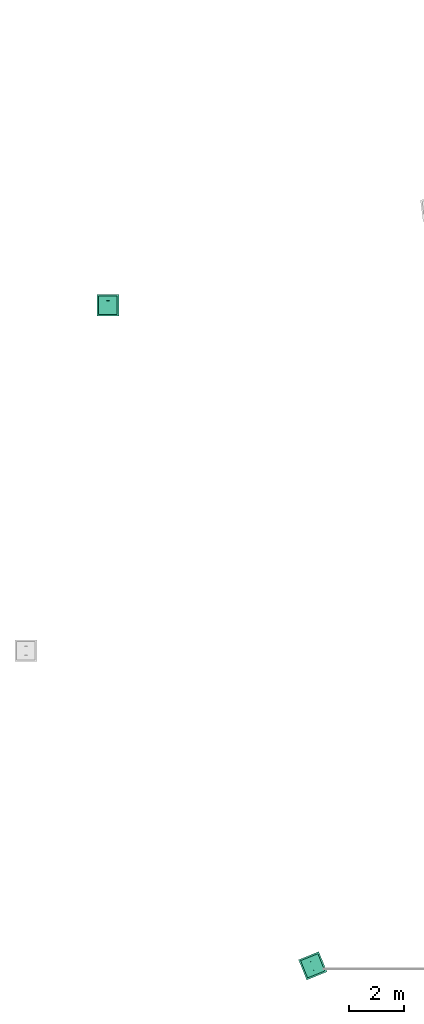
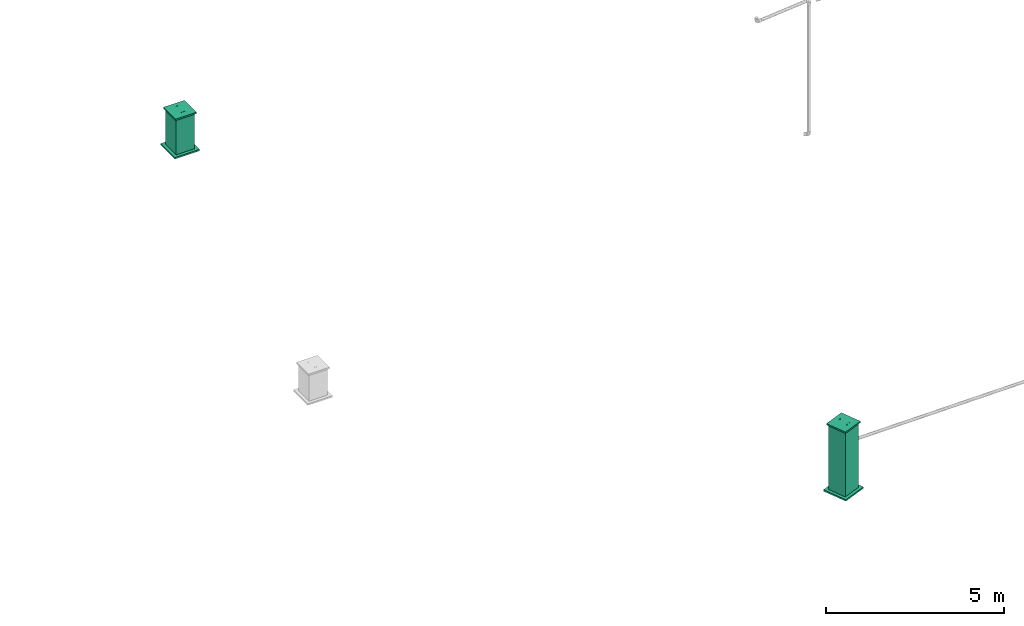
# One storey, part 92 of 97: 2 flow terminals.
"""IFC2X3 building model written with IfcOpenShell, lengths in centimetres."""

from ifc_helpers import new_model, entity, si_unit, converted_unit, derived_unit, direction, frame, origin, place, context, subcontext, project, spatial, faceted_brep, source, transform, mapped, material, material_list, type_object, type_shapes, element, save


model = new_model("IFC2X3")

# Units and contexts
model_context = context("Model", 3, precision=0.001, world=origin(), true_north=direction((6.12303176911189e-17, 1.0)))
body_context = subcontext(model_context, "Body", "Model", "MODEL_VIEW")
ifc_project = project(units=[si_unit("LENGTHUNIT", "METRE", prefix="CENTI"), si_unit("AREAUNIT", "SQUARE_METRE"), si_unit("VOLUMEUNIT", "CUBIC_METRE"), converted_unit("PLANEANGLEUNIT", "DEGREE", entity("IfcRatioMeasure", 0.0174532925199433), si_unit("PLANEANGLEUNIT", "RADIAN"), dimensions=[0, 0, 0, 0, 0, 0, 0]), si_unit("MASSUNIT", "GRAM", prefix="KILO"), derived_unit("MASSDENSITYUNIT", [(si_unit("MASSUNIT", "GRAM", prefix="KILO"), 1), (si_unit("LENGTHUNIT", "METRE"), -3)]), derived_unit("MOMENTOFINERTIAUNIT", [(si_unit("LENGTHUNIT", "METRE"), 4)]), si_unit("TIMEUNIT", "SECOND"), si_unit("FREQUENCYUNIT", "HERTZ"), si_unit("THERMODYNAMICTEMPERATUREUNIT", "DEGREE_CELSIUS"), derived_unit("THERMALTRANSMITTANCEUNIT", [(si_unit("MASSUNIT", "GRAM", prefix="KILO"), 1), (si_unit("THERMODYNAMICTEMPERATUREUNIT", "KELVIN"), -1), (si_unit("TIMEUNIT", "SECOND"), -3)]), derived_unit("VOLUMETRICFLOWRATEUNIT", [(si_unit("LENGTHUNIT", "METRE"), 3), (si_unit("TIMEUNIT", "SECOND"), -1)]), si_unit("ELECTRICCURRENTUNIT", "AMPERE"), si_unit("ELECTRICVOLTAGEUNIT", "VOLT"), si_unit("POWERUNIT", "WATT"), si_unit("FORCEUNIT", "NEWTON", prefix="KILO"), si_unit("ILLUMINANCEUNIT", "LUX"), si_unit("LUMINOUSFLUXUNIT", "LUMEN"), si_unit("LUMINOUSINTENSITYUNIT", "CANDELA"), derived_unit("USERDEFINED", [(si_unit("MASSUNIT", "GRAM", prefix="KILO"), -1), (si_unit("LENGTHUNIT", "METRE"), -2), (si_unit("TIMEUNIT", "SECOND"), 3), (si_unit("LUMINOUSFLUXUNIT", "LUMEN"), 1)]), derived_unit("LINEARVELOCITYUNIT", [(si_unit("LENGTHUNIT", "METRE"), 1), (si_unit("TIMEUNIT", "SECOND"), -1)]), si_unit("PRESSUREUNIT", "PASCAL"), derived_unit("USERDEFINED", [(si_unit("LENGTHUNIT", "METRE"), -2), (si_unit("MASSUNIT", "GRAM", prefix="KILO"), 1), (si_unit("TIMEUNIT", "SECOND"), -2)]), derived_unit("LINEARFORCEUNIT", [(si_unit("MASSUNIT", "GRAM", prefix="KILO"), 1), (si_unit("LENGTHUNIT", "METRE"), 1), (si_unit("TIMEUNIT", "SECOND"), -2), (si_unit("LENGTHUNIT", "METRE"), -1)]), derived_unit("PLANARFORCEUNIT", [(si_unit("MASSUNIT", "GRAM", prefix="KILO"), 1), (si_unit("LENGTHUNIT", "METRE"), 1), (si_unit("TIMEUNIT", "SECOND"), -2), (si_unit("LENGTHUNIT", "METRE"), -2)])], contexts=[model_context])

# Site, building, storey
site_placement = place(None, origin())
site = spatial("IfcSite", under=ifc_project, at=site_placement, Name="Default", CompositionType="ELEMENT")
building_placement = place(site_placement, origin())
building = spatial("IfcBuilding", under=site, at=building_placement, Name="HIDROSSANITÁRIO", CompositionType="ELEMENT")
storey_placement = place(building_placement, frame((0.0, 0.0, -260.0)))
storey = spatial("IfcBuildingStorey", under=building, at=storey_placement, Name="TÉRREO-HID", CompositionType="ELEMENT", Elevation=-260.0)

# Flow terminals
ifc_material_1 = material(Name="<Unnamed>")
ifc_material_2 = material(Name="Concrete, Sand/Cement Screed")
ifc_material_3 = material(Name="Brick, Common, Grey")
ifc_material_list_1 = material_list([ifc_material_1, ifc_material_2, ifc_material_3])
ifc_material_list_2 = material_list([ifc_material_1, ifc_material_2, ifc_material_3])
distribution_element_type_1 = type_object("IfcDistributionElementType", Name="Caixa de Inspeção/Gordura:Alvenaria", material=ifc_material_list_2)
shared_shape_1 = source(origin(), body_context, "Body", "Brep", [
    faceted_brep([(-5.60146522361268, 16.5924553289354, 3.71042168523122), (-5.40613785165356, 16.3971279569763, 3.71042168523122), (-5.60146522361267, 16.2018005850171, 3.71042168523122), (-5.79679259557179, 16.3971279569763, 3.71042168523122), (6.39853477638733, 16.2018005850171, 3.71042168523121), (6.20320740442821, 16.3971279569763, 3.71042168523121), (6.39853477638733, 16.5924553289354, 3.71042168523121), (6.59386214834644, 16.3971279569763, 3.71042168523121), (-5.40613785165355, 16.3971279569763, 5.27042602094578), (-5.57070403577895, 16.2042380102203, 5.71042174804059), (-5.79679259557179, 16.3971279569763, 5.27042593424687), (-5.40613785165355, 16.3971279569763, 7.71042168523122), (-5.60146522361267, 16.2018005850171, 7.71042168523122), (-5.40613785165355, 16.3971279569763, 6.1504173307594), (-5.79679259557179, 16.3971279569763, 7.71042168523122), (-5.60146522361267, 16.5924553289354, 7.71042168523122), (-5.63222641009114, 16.5900179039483, 5.71042169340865), (-5.68947233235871, 16.5044482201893, 7.71042168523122), (-5.25102598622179, 16.2195619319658, 8.35998244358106), (-5.37993713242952, 16.2298951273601, 8.48889359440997), (-4.60146522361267, 16.3971279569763, 8.90574905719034), (-4.60146522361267, 16.2018005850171, 8.71042168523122), (-5.17045469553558, 16.3971279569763, 8.27941115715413), (-4.60146522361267, 16.3971279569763, 8.5150943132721), (-5.44668931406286, 16.3971279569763, 8.55564577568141), (-5.36898819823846, 16.5727768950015, 8.47794465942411), (-5.21737432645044, 16.5627205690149, 8.36172681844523), (-4.60146522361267, 16.5924553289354, 8.71042168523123), (0.518543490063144, 16.3971279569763, 8.90574905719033), (1.73854147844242, 16.2018005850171, 8.71042168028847), (2.95853913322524, 16.3971279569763, 8.90574905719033), (-0.76461087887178, 16.2018577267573, 8.71514602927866), (-2.16146960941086, 16.3971279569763, 8.5150943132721), (0.278526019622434, 16.3971279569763, 8.5150943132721), (0.398534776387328, 16.3971279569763, 8.5150943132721), (-2.16146958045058, 16.3971279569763, 8.90574905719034), (5.39853477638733, 16.2018005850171, 8.71042168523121), (5.39853477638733, 16.3971279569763, 8.90574905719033), (2.95853916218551, 16.3971279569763, 8.5150943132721), (5.39853477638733, 16.3971279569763, 8.51509431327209), (0.398534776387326, 16.3971279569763, 8.90574905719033), (1.56168082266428, 16.5923981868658, 8.70569732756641), (-0.941471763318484, 16.5924553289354, 8.71042168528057), (5.39853477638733, 16.5924553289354, 8.71042168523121), (5.39853477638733, 16.5044482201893, 8.79842879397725), (6.04809553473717, 16.2195619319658, 8.35998244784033), (6.17700668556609, 16.2298951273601, 8.48889359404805), (6.59386214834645, 16.3971279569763, 7.71042168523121), (6.39853477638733, 16.2018005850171, 7.71042168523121), (5.96752424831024, 16.3971279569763, 8.27941115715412), (6.20320740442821, 16.3971279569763, 7.71042168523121), (6.24375886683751, 16.3971279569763, 8.5556457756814), (6.16605775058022, 16.5727768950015, 8.477944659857), (6.04983990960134, 16.5627205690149, 8.32633078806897), (6.39853477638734, 16.5924553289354, 7.71042168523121), (6.20320740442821, 16.3971279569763, 6.15041734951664), (6.36777358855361, 16.2042380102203, 5.71042162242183), (6.59386214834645, 16.3971279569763, 6.15041743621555), (6.20320740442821, 16.3971279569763, 5.27042603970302), (6.4292959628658, 16.5900179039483, 5.71042167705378)], [[[0, 1, 2, 3]], [[4, 5, 6, 7]], [[8, 9, 2]], [[2, 10, 3]], [[10, 2, 9]], [[11, 12, 9]], [[8, 2, 1]], [[9, 8, 13, 11]], [[9, 12, 14]], [[14, 10, 9]], [[13, 15, 11]], [[0, 10, 16]], [[14, 16, 10]], [[10, 0, 3]], [[16, 13, 8, 1]], [[13, 16, 15]], [[1, 0, 16]], [[16, 14, 17, 15]], [[12, 18, 19]], [[20, 19, 21]], [[14, 12, 19]], [[11, 22, 18]], [[23, 21, 18]], [[14, 19, 24]], [[24, 19, 20]], [[23, 18, 22]], [[19, 18, 21]], [[11, 18, 12]], [[17, 14, 24]], [[25, 26, 15]], [[25, 15, 17]], [[11, 15, 26]], [[25, 27, 26]], [[20, 25, 24]], [[20, 27, 25]], [[26, 22, 11]], [[22, 26, 23]], [[17, 24, 25]], [[23, 26, 27]], [[28, 29, 30]], [[31, 32, 33, 34]], [[35, 20, 21]], [[36, 37, 30]], [[29, 28, 31]], [[38, 39, 36]], [[21, 23, 32]], [[34, 29, 31]], [[32, 31, 21]], [[30, 29, 36]], [[34, 38, 29]], [[36, 29, 38]], [[31, 28, 40, 35]], [[31, 35, 21]], [[40, 41, 42]], [[43, 39, 38]], [[27, 42, 33, 32, 23]], [[27, 20, 35, 40, 42]], [[30, 37, 44, 43]], [[38, 41, 43]], [[30, 43, 41]], [[42, 41, 33]], [[41, 40, 28, 30]], [[41, 38, 34, 33]], [[36, 45, 46]], [[47, 46, 48]], [[37, 36, 46]], [[39, 49, 45]], [[50, 48, 45]], [[37, 46, 51]], [[51, 46, 47]], [[50, 45, 49]], [[46, 45, 48]], [[39, 45, 36]], [[44, 37, 51]], [[52, 53, 43]], [[52, 43, 44]], [[39, 43, 53]], [[52, 54, 53]], [[47, 52, 51]], [[47, 54, 52]], [[53, 49, 39]], [[49, 53, 50]], [[44, 51, 52]], [[50, 53, 54]], [[55, 56, 48]], [[48, 57, 47]], [[57, 48, 56]], [[5, 4, 56]], [[55, 48, 50]], [[56, 55, 58, 5]], [[56, 4, 7]], [[7, 57, 56]], [[58, 6, 5]], [[54, 57, 59]], [[7, 59, 57]], [[57, 54, 47]], [[59, 58, 55, 50]], [[58, 59, 6]], [[50, 54, 59]], [[7, 6, 59]]]),
    faceted_brep([(-5.60146522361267, -16.5924553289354, 3.71042168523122), (-5.79679259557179, -16.3971279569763, 3.71042168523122), (-5.60146522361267, -16.2018005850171, 3.71042168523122), (-5.40613785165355, -16.3971279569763, 3.71042168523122), (6.39853477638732, -16.2018005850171, 3.71042168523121), (6.59386214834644, -16.3971279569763, 3.71042168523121), (6.39853477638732, -16.5924553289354, 3.71042168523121), (6.20320740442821, -16.3971279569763, 3.71042168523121), (-5.79679259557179, -16.3971279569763, 6.15041737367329), (-5.60146522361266, -16.5924553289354, 7.71042168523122), (-5.68947233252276, -16.5044482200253, 7.71042168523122), (-5.79679259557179, -16.3971279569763, 7.71042168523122), (-5.40613785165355, -16.3971279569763, 5.27042602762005), (-5.5707040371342, -16.5900179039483, 5.71042169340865), (-5.40613785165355, -16.3971279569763, 7.71042168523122), (-5.79679259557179, -16.3971279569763, 5.27042602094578), (-5.51345811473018, -16.5044482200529, 7.71042168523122), (-5.63222641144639, -16.2042380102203, 5.71042174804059), (-5.60146522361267, -16.2018005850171, 7.71042168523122), (-5.37028554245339, -16.5521831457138, 8.52319636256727), (-5.44668931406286, -16.3971279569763, 8.55564577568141), (-5.17045469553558, -16.3971279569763, 8.27941115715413), (-4.60146522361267, -16.3971279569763, 8.5150943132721), (-4.60146522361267, -16.5044482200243, 8.62241457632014), (-4.60146522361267, -16.5924553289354, 8.71042168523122), (-4.60146522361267, -16.5044482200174, 8.79842879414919), (-5.27261908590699, -16.5857215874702, 8.3815755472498), (-4.60146522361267, -16.3971279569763, 8.90574905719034), (-5.23720687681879, -16.2298951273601, 8.34616333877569), (-4.60146522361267, -16.2018005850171, 8.71042168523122), (-5.36611802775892, -16.2195619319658, 8.4750744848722), (0.398534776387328, -16.3971279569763, 8.5150943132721), (1.56168082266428, -16.5923981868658, 8.71514604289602), (-0.941471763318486, -16.5924553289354, 8.71042168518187), (2.95853912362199, -16.3971279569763, 8.90574905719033), (5.39853477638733, -16.5924553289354, 8.71042168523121), (5.39853477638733, -16.5044482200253, 8.7984287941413), (5.39853477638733, -16.3971279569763, 8.90574905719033), (0.278526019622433, -16.3971279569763, 8.90574905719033), (-2.16146957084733, -16.3971279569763, 8.90574905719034), (-2.16146960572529, -16.3971279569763, 8.5150943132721), (2.95853915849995, -16.3971279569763, 8.51509431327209), (5.39853477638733, -16.3971279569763, 8.51509431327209), (5.39853477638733, -16.5044482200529, 8.62241457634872), (0.518543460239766, -16.3971279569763, 8.5150943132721), (0.398534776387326, -16.3971279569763, 8.90574905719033), (1.73854147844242, -16.2018005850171, 8.71042169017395), (-0.76461087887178, -16.2018577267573, 8.70569734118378), (5.39853477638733, -16.2018005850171, 8.71042168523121), (6.21130945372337, -16.5521831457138, 8.47924200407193), (6.24375886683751, -16.3971279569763, 8.5556457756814), (5.96752424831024, -16.3971279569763, 8.27941115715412), (6.20320740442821, -16.3971279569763, 7.71042168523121), (6.31052766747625, -16.5044482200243, 7.71042168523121), (6.39853477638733, -16.5924553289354, 7.71042168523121), (6.4865418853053, -16.5044482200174, 7.71042168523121), (6.06968863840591, -16.5857215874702, 8.38157554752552), (6.59386214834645, -16.3971279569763, 7.71042168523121), (6.03427642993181, -16.2298951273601, 8.34616333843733), (6.39853477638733, -16.2018005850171, 7.71042168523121), (6.16318757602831, -16.2195619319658, 8.47507448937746), (6.59386214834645, -16.3971279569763, 5.27042599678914), (6.20320740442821, -16.3971279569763, 6.15041726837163), (6.36777358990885, -16.5900179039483, 5.71042167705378), (6.59386214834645, -16.3971279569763, 6.15041734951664), (6.42929596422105, -16.2042380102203, 5.71042162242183)], [[[0, 1, 2, 3]], [[4, 5, 6, 7]], [[8, 9, 10, 11]], [[0, 12, 13]], [[14, 13, 12]], [[12, 0, 3]], [[13, 8, 15, 1]], [[8, 13, 9]], [[1, 0, 13]], [[13, 14, 16, 9]], [[15, 17, 2]], [[2, 12, 3]], [[12, 2, 17]], [[11, 18, 17]], [[15, 2, 1]], [[17, 15, 8, 11]], [[17, 18, 14]], [[14, 12, 17]], [[19, 10, 9]], [[10, 19, 20]], [[21, 22, 23]], [[24, 25, 19]], [[24, 26, 23]], [[24, 19, 26]], [[16, 26, 9]], [[20, 25, 27]], [[20, 11, 10]], [[23, 26, 21]], [[19, 25, 20]], [[14, 21, 16]], [[26, 19, 9]], [[26, 16, 21]], [[22, 28, 29]], [[18, 30, 28]], [[14, 28, 21]], [[14, 18, 28]], [[11, 20, 30]], [[27, 30, 20]], [[27, 29, 30]], [[11, 30, 18]], [[21, 28, 22]], [[28, 30, 29]], [[31, 32, 33]], [[34, 35, 36, 37]], [[24, 33, 38, 39, 27, 25]], [[40, 31, 33, 24, 23, 22]], [[41, 42, 43, 35]], [[34, 32, 35]], [[41, 35, 32]], [[33, 32, 38]], [[32, 31, 44, 41]], [[32, 34, 45, 38]], [[44, 46, 41]], [[47, 39, 38, 45]], [[40, 22, 29]], [[48, 42, 41]], [[46, 44, 47]], [[34, 37, 48]], [[29, 27, 39]], [[45, 46, 47]], [[39, 47, 29]], [[41, 46, 48]], [[45, 34, 46]], [[48, 46, 34]], [[47, 44, 31, 40]], [[47, 40, 29]], [[49, 36, 35]], [[36, 49, 50]], [[51, 52, 53]], [[54, 55, 49]], [[54, 56, 53]], [[54, 49, 56]], [[43, 56, 35]], [[50, 55, 57]], [[50, 37, 36]], [[53, 56, 51]], [[49, 55, 50]], [[42, 51, 43]], [[56, 49, 35]], [[56, 43, 51]], [[52, 58, 59]], [[48, 60, 58]], [[42, 58, 51]], [[42, 48, 58]], [[37, 50, 60]], [[57, 60, 50]], [[57, 59, 60]], [[37, 60, 48]], [[51, 58, 52]], [[58, 60, 59]], [[61, 6, 5]], [[54, 62, 63]], [[7, 63, 62]], [[62, 54, 53, 52]], [[63, 61, 64, 57]], [[61, 63, 6]], [[63, 57, 55, 54]], [[7, 6, 63]], [[64, 65, 59]], [[59, 62, 52]], [[62, 59, 65]], [[5, 4, 65]], [[64, 59, 57]], [[65, 64, 61, 5]], [[65, 4, 7]], [[7, 62, 65]]]),
    faceted_brep([(34.0, 34.0, 6.0), (-34.0, 34.0, 6.0), (-34.0, -34.0, 6.0), (34.0, -34.0, 6.0), (34.0, 34.0, 1.0), (34.0, -34.0, 1.0), (-34.0, -34.0, 1.0), (-34.0, 34.0, 1.0)], [[[0, 1, 2, 3]], [[4, 5, 6, 7]], [[1, 0, 4, 7]], [[2, 1, 7, 6]], [[3, 2, 6, 5]], [[0, 3, 5, 4]]]),
    faceted_brep([(40.0, 40.0, -120.0), (-40.0, 40.0, -120.0), (-40.0, -40.0, -120.0), (40.0, -40.0, -120.0), (40.0, 40.0, -125.0), (40.0, -40.0, -125.0), (-40.0, -40.0, -125.0), (-40.0, 40.0, -125.0)], [[[0, 1, 2, 3]], [[4, 5, 6, 7]], [[1, 0, 4, 7]], [[2, 1, 7, 6]], [[3, 2, 6, 5]], [[0, 3, 5, 4]]]),
    faceted_brep([(25.0, 25.0, 1.0), (25.0, -25.0, 1.0), (-25.0, -25.0, 1.0), (-25.0, 25.0, 1.0), (30.0, 30.0, 1.0), (-30.0, 30.0, 1.0), (-30.0, -30.0, 1.0), (30.0, -30.0, 1.0), (25.0, 25.0, -120.0), (-25.0, 25.0, -120.0), (-25.0, -25.0, -120.0), (25.0, -25.0, -120.0), (30.0, 30.0, -120.0), (30.0, -30.0, -120.0), (-30.0, -30.0, -120.0), (-30.0, 30.0, -120.0)], [[[0, 1, 2, 3], [4, 5, 6, 7]], [[8, 9, 10, 11], [12, 13, 14, 15]], [[1, 0, 8, 11]], [[2, 1, 11, 10]], [[3, 2, 10, 9]], [[0, 3, 9, 8]], [[5, 4, 12, 15]], [[6, 5, 15, 14]], [[7, 6, 14, 13]], [[4, 7, 13, 12]]], outer=[[False, True], [False, True], [True], [True], [True], [True], [True], [True], [True], [True]]),
])
type_shapes(distribution_element_type_1, [shared_shape_1])
flow_terminal_1_placement = place(storey_placement, frame((1453.501476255, 2352.47185242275, 33.0)))
element("IfcFlowTerminal", 1, at=flow_terminal_1_placement, inside=storey, type_object=distribution_element_type_1, material=ifc_material_list_1, Name="Caixa de Inspeção/Gordura:Alvenaria", ObjectType="Caixa de Inspeção/Gordura:Alvenaria", context=body_context, shape_type="MappedRepresentation", body=[
    mapped(shared_shape_1, transform((0.0, 0.0, 0.0), scale=1.0)),
])
ifc_material_list_3 = material_list([ifc_material_1, ifc_material_2, ifc_material_3])
ifc_material_list_4 = material_list([ifc_material_1, ifc_material_2, ifc_material_3])
distribution_element_type_2 = type_object("IfcDistributionElementType", Name="Caixa de Inspeção/Gordura:Alvenaria", material=ifc_material_list_4)
shared_shape_2 = source(origin(), body_context, "Body", "Brep", [
    faceted_brep([(-5.60146522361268, 16.5924553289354, 3.71042168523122), (-5.40613785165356, 16.3971279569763, 3.71042168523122), (-5.60146522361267, 16.2018005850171, 3.71042168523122), (-5.79679259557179, 16.3971279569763, 3.71042168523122), (6.39853477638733, 16.2018005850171, 3.71042168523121), (6.20320740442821, 16.3971279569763, 3.71042168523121), (6.39853477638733, 16.5924553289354, 3.71042168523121), (6.59386214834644, 16.3971279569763, 3.71042168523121), (-5.40613785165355, 16.3971279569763, 5.27042602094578), (-5.57070403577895, 16.2042380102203, 5.71042174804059), (-5.79679259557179, 16.3971279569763, 5.27042593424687), (-5.40613785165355, 16.3971279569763, 7.71042168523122), (-5.60146522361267, 16.2018005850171, 7.71042168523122), (-5.40613785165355, 16.3971279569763, 6.1504173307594), (-5.79679259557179, 16.3971279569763, 7.71042168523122), (-5.60146522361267, 16.5924553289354, 7.71042168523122), (-5.63222641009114, 16.5900179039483, 5.71042169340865), (-5.68947233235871, 16.5044482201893, 7.71042168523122), (-5.25102598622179, 16.2195619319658, 8.35998244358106), (-5.37993713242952, 16.2298951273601, 8.48889359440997), (-4.60146522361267, 16.3971279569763, 8.90574905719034), (-4.60146522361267, 16.2018005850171, 8.71042168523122), (-5.17045469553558, 16.3971279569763, 8.27941115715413), (-4.60146522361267, 16.3971279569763, 8.5150943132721), (-5.44668931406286, 16.3971279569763, 8.55564577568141), (-5.36898819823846, 16.5727768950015, 8.47794465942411), (-5.21737432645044, 16.5627205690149, 8.36172681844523), (-4.60146522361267, 16.5924553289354, 8.71042168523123), (0.518543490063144, 16.3971279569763, 8.90574905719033), (1.73854147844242, 16.2018005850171, 8.71042168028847), (2.95853913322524, 16.3971279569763, 8.90574905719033), (-0.76461087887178, 16.2018577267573, 8.71514602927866), (-2.16146960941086, 16.3971279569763, 8.5150943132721), (0.278526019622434, 16.3971279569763, 8.5150943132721), (0.398534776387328, 16.3971279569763, 8.5150943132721), (-2.16146958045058, 16.3971279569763, 8.90574905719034), (5.39853477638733, 16.2018005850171, 8.71042168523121), (5.39853477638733, 16.3971279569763, 8.90574905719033), (2.95853916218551, 16.3971279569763, 8.5150943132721), (5.39853477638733, 16.3971279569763, 8.51509431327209), (0.398534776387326, 16.3971279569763, 8.90574905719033), (1.56168082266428, 16.5923981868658, 8.70569732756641), (-0.941471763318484, 16.5924553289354, 8.71042168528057), (5.39853477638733, 16.5924553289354, 8.71042168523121), (5.39853477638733, 16.5044482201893, 8.79842879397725), (6.04809553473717, 16.2195619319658, 8.35998244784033), (6.17700668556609, 16.2298951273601, 8.48889359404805), (6.59386214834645, 16.3971279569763, 7.71042168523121), (6.39853477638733, 16.2018005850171, 7.71042168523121), (5.96752424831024, 16.3971279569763, 8.27941115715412), (6.20320740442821, 16.3971279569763, 7.71042168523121), (6.24375886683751, 16.3971279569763, 8.5556457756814), (6.16605775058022, 16.5727768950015, 8.477944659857), (6.04983990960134, 16.5627205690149, 8.32633078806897), (6.39853477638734, 16.5924553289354, 7.71042168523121), (6.20320740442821, 16.3971279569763, 6.15041734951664), (6.36777358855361, 16.2042380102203, 5.71042162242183), (6.59386214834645, 16.3971279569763, 6.15041743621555), (6.20320740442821, 16.3971279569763, 5.27042603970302), (6.4292959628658, 16.5900179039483, 5.71042167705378)], [[[0, 1, 2, 3]], [[4, 5, 6, 7]], [[8, 9, 2]], [[2, 10, 3]], [[10, 2, 9]], [[11, 12, 9]], [[8, 2, 1]], [[9, 8, 13, 11]], [[9, 12, 14]], [[14, 10, 9]], [[13, 15, 11]], [[0, 10, 16]], [[14, 16, 10]], [[10, 0, 3]], [[16, 13, 8, 1]], [[13, 16, 15]], [[1, 0, 16]], [[16, 14, 17, 15]], [[12, 18, 19]], [[20, 19, 21]], [[14, 12, 19]], [[11, 22, 18]], [[23, 21, 18]], [[14, 19, 24]], [[24, 19, 20]], [[23, 18, 22]], [[19, 18, 21]], [[11, 18, 12]], [[17, 14, 24]], [[25, 26, 15]], [[25, 15, 17]], [[11, 15, 26]], [[25, 27, 26]], [[20, 25, 24]], [[20, 27, 25]], [[26, 22, 11]], [[22, 26, 23]], [[17, 24, 25]], [[23, 26, 27]], [[28, 29, 30]], [[31, 32, 33, 34]], [[35, 20, 21]], [[36, 37, 30]], [[29, 28, 31]], [[38, 39, 36]], [[21, 23, 32]], [[34, 29, 31]], [[32, 31, 21]], [[30, 29, 36]], [[34, 38, 29]], [[36, 29, 38]], [[31, 28, 40, 35]], [[31, 35, 21]], [[40, 41, 42]], [[43, 39, 38]], [[27, 42, 33, 32, 23]], [[27, 20, 35, 40, 42]], [[30, 37, 44, 43]], [[38, 41, 43]], [[30, 43, 41]], [[42, 41, 33]], [[41, 40, 28, 30]], [[41, 38, 34, 33]], [[36, 45, 46]], [[47, 46, 48]], [[37, 36, 46]], [[39, 49, 45]], [[50, 48, 45]], [[37, 46, 51]], [[51, 46, 47]], [[50, 45, 49]], [[46, 45, 48]], [[39, 45, 36]], [[44, 37, 51]], [[52, 53, 43]], [[52, 43, 44]], [[39, 43, 53]], [[52, 54, 53]], [[47, 52, 51]], [[47, 54, 52]], [[53, 49, 39]], [[49, 53, 50]], [[44, 51, 52]], [[50, 53, 54]], [[55, 56, 48]], [[48, 57, 47]], [[57, 48, 56]], [[5, 4, 56]], [[55, 48, 50]], [[56, 55, 58, 5]], [[56, 4, 7]], [[7, 57, 56]], [[58, 6, 5]], [[54, 57, 59]], [[7, 59, 57]], [[57, 54, 47]], [[59, 58, 55, 50]], [[58, 59, 6]], [[50, 54, 59]], [[7, 6, 59]]]),
    faceted_brep([(-5.60146522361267, -16.5924553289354, 3.71042168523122), (-5.79679259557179, -16.3971279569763, 3.71042168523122), (-5.60146522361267, -16.2018005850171, 3.71042168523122), (-5.40613785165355, -16.3971279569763, 3.71042168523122), (6.39853477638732, -16.2018005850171, 3.71042168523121), (6.59386214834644, -16.3971279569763, 3.71042168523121), (6.39853477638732, -16.5924553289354, 3.71042168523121), (6.20320740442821, -16.3971279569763, 3.71042168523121), (-5.79679259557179, -16.3971279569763, 6.15041737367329), (-5.60146522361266, -16.5924553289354, 7.71042168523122), (-5.68947233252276, -16.5044482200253, 7.71042168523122), (-5.79679259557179, -16.3971279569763, 7.71042168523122), (-5.40613785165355, -16.3971279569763, 5.27042602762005), (-5.5707040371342, -16.5900179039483, 5.71042169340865), (-5.40613785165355, -16.3971279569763, 7.71042168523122), (-5.79679259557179, -16.3971279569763, 5.27042602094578), (-5.51345811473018, -16.5044482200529, 7.71042168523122), (-5.63222641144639, -16.2042380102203, 5.71042174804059), (-5.60146522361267, -16.2018005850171, 7.71042168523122), (-5.37028554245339, -16.5521831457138, 8.52319636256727), (-5.44668931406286, -16.3971279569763, 8.55564577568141), (-5.17045469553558, -16.3971279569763, 8.27941115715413), (-4.60146522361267, -16.3971279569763, 8.5150943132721), (-4.60146522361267, -16.5044482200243, 8.62241457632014), (-4.60146522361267, -16.5924553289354, 8.71042168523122), (-4.60146522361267, -16.5044482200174, 8.79842879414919), (-5.27261908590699, -16.5857215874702, 8.3815755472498), (-4.60146522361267, -16.3971279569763, 8.90574905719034), (-5.23720687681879, -16.2298951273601, 8.34616333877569), (-4.60146522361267, -16.2018005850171, 8.71042168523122), (-5.36611802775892, -16.2195619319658, 8.4750744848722), (0.398534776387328, -16.3971279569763, 8.5150943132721), (1.56168082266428, -16.5923981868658, 8.71514604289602), (-0.941471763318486, -16.5924553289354, 8.71042168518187), (2.95853912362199, -16.3971279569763, 8.90574905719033), (5.39853477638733, -16.5924553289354, 8.71042168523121), (5.39853477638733, -16.5044482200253, 8.7984287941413), (5.39853477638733, -16.3971279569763, 8.90574905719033), (0.278526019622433, -16.3971279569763, 8.90574905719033), (-2.16146957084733, -16.3971279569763, 8.90574905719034), (-2.16146960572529, -16.3971279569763, 8.5150943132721), (2.95853915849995, -16.3971279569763, 8.51509431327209), (5.39853477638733, -16.3971279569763, 8.51509431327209), (5.39853477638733, -16.5044482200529, 8.62241457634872), (0.518543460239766, -16.3971279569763, 8.5150943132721), (0.398534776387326, -16.3971279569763, 8.90574905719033), (1.73854147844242, -16.2018005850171, 8.71042169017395), (-0.76461087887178, -16.2018577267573, 8.70569734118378), (5.39853477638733, -16.2018005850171, 8.71042168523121), (6.21130945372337, -16.5521831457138, 8.47924200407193), (6.24375886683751, -16.3971279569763, 8.5556457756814), (5.96752424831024, -16.3971279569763, 8.27941115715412), (6.20320740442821, -16.3971279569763, 7.71042168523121), (6.31052766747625, -16.5044482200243, 7.71042168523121), (6.39853477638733, -16.5924553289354, 7.71042168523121), (6.4865418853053, -16.5044482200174, 7.71042168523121), (6.06968863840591, -16.5857215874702, 8.38157554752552), (6.59386214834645, -16.3971279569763, 7.71042168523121), (6.03427642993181, -16.2298951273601, 8.34616333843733), (6.39853477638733, -16.2018005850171, 7.71042168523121), (6.16318757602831, -16.2195619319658, 8.47507448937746), (6.59386214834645, -16.3971279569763, 5.27042599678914), (6.20320740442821, -16.3971279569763, 6.15041726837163), (6.36777358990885, -16.5900179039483, 5.71042167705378), (6.59386214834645, -16.3971279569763, 6.15041734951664), (6.42929596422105, -16.2042380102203, 5.71042162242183)], [[[0, 1, 2, 3]], [[4, 5, 6, 7]], [[8, 9, 10, 11]], [[0, 12, 13]], [[14, 13, 12]], [[12, 0, 3]], [[13, 8, 15, 1]], [[8, 13, 9]], [[1, 0, 13]], [[13, 14, 16, 9]], [[15, 17, 2]], [[2, 12, 3]], [[12, 2, 17]], [[11, 18, 17]], [[15, 2, 1]], [[17, 15, 8, 11]], [[17, 18, 14]], [[14, 12, 17]], [[19, 10, 9]], [[10, 19, 20]], [[21, 22, 23]], [[24, 25, 19]], [[24, 26, 23]], [[24, 19, 26]], [[16, 26, 9]], [[20, 25, 27]], [[20, 11, 10]], [[23, 26, 21]], [[19, 25, 20]], [[14, 21, 16]], [[26, 19, 9]], [[26, 16, 21]], [[22, 28, 29]], [[18, 30, 28]], [[14, 28, 21]], [[14, 18, 28]], [[11, 20, 30]], [[27, 30, 20]], [[27, 29, 30]], [[11, 30, 18]], [[21, 28, 22]], [[28, 30, 29]], [[31, 32, 33]], [[34, 35, 36, 37]], [[24, 33, 38, 39, 27, 25]], [[40, 31, 33, 24, 23, 22]], [[41, 42, 43, 35]], [[34, 32, 35]], [[41, 35, 32]], [[33, 32, 38]], [[32, 31, 44, 41]], [[32, 34, 45, 38]], [[44, 46, 41]], [[47, 39, 38, 45]], [[40, 22, 29]], [[48, 42, 41]], [[46, 44, 47]], [[34, 37, 48]], [[29, 27, 39]], [[45, 46, 47]], [[39, 47, 29]], [[41, 46, 48]], [[45, 34, 46]], [[48, 46, 34]], [[47, 44, 31, 40]], [[47, 40, 29]], [[49, 36, 35]], [[36, 49, 50]], [[51, 52, 53]], [[54, 55, 49]], [[54, 56, 53]], [[54, 49, 56]], [[43, 56, 35]], [[50, 55, 57]], [[50, 37, 36]], [[53, 56, 51]], [[49, 55, 50]], [[42, 51, 43]], [[56, 49, 35]], [[56, 43, 51]], [[52, 58, 59]], [[48, 60, 58]], [[42, 58, 51]], [[42, 48, 58]], [[37, 50, 60]], [[57, 60, 50]], [[57, 59, 60]], [[37, 60, 48]], [[51, 58, 52]], [[58, 60, 59]], [[61, 6, 5]], [[54, 62, 63]], [[7, 63, 62]], [[62, 54, 53, 52]], [[63, 61, 64, 57]], [[61, 63, 6]], [[63, 57, 55, 54]], [[7, 6, 63]], [[64, 65, 59]], [[59, 62, 52]], [[62, 59, 65]], [[5, 4, 65]], [[64, 59, 57]], [[65, 64, 61, 5]], [[65, 4, 7]], [[7, 62, 65]]]),
    faceted_brep([(34.0, 34.0, 6.0), (-34.0, 34.0, 6.0), (-34.0, -34.0, 6.0), (34.0, -34.0, 6.0), (34.0, 34.0, 1.0), (34.0, -34.0, 1.0), (-34.0, -34.0, 1.0), (-34.0, 34.0, 1.0)], [[[0, 1, 2, 3]], [[4, 5, 6, 7]], [[1, 0, 4, 7]], [[2, 1, 7, 6]], [[3, 2, 6, 5]], [[0, 3, 5, 4]]]),
    faceted_brep([(40.0, 40.0, -220.0), (-40.0, 40.0, -220.0), (-40.0, -40.0, -220.0), (40.0, -40.0, -220.0), (40.0, 40.0, -225.0), (40.0, -40.0, -225.0), (-40.0, -40.0, -225.0), (-40.0, 40.0, -225.0)], [[[0, 1, 2, 3]], [[4, 5, 6, 7]], [[1, 0, 4, 7]], [[2, 1, 7, 6]], [[3, 2, 6, 5]], [[0, 3, 5, 4]]]),
    faceted_brep([(25.0, 25.0, 1.0), (25.0, -25.0, 1.0), (-25.0, -25.0, 1.0), (-25.0, 25.0, 1.0), (30.0, 30.0, 1.0), (-30.0, 30.0, 1.0), (-30.0, -30.0, 1.0), (30.0, -30.0, 1.0), (25.0, 25.0, -220.0), (-25.0, 25.0, -220.0), (-25.0, -25.0, -220.0), (25.0, -25.0, -220.0), (30.0, 30.0, -220.0), (30.0, -30.0, -220.0), (-30.0, -30.0, -220.0), (-30.0, 30.0, -220.0)], [[[0, 1, 2, 3], [4, 5, 6, 7]], [[8, 9, 10, 11], [12, 13, 14, 15]], [[1, 0, 8, 11]], [[2, 1, 11, 10]], [[3, 2, 10, 9]], [[0, 3, 9, 8]], [[5, 4, 12, 15]], [[6, 5, 15, 14]], [[7, 6, 14, 13]], [[4, 7, 13, 12]]], outer=[[False, True], [False, True], [True], [True], [True], [True], [True], [True], [True], [True]]),
])
type_shapes(distribution_element_type_2, [shared_shape_2])
flow_terminal_2_placement = place(storey_placement, frame((2204.61466743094, -70.7653132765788, 168.0), z_axis=(0.0, 0.0, 1.0), x_axis=(0.927348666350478, 0.374198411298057, 0.0)))
element("IfcFlowTerminal", 2, at=flow_terminal_2_placement, inside=storey, type_object=distribution_element_type_2, material=ifc_material_list_3, Name="Caixa de Inspeção/Gordura:Alvenaria", ObjectType="Caixa de Inspeção/Gordura:Alvenaria", context=body_context, shape_type="MappedRepresentation", body=[
    mapped(shared_shape_2, transform((0.0, 0.0, 0.0), scale=1.0)),
])

save(model, "model.ifc")
